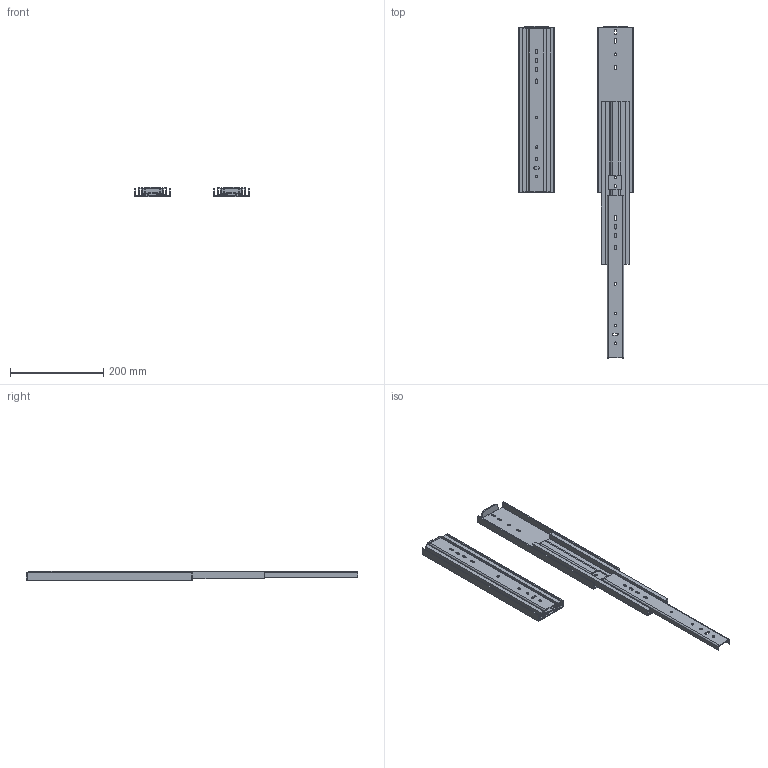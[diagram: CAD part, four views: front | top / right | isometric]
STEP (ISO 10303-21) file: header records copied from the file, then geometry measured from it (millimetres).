
FILE_DESCRIPTION((''),'2;1');
FILE_NAME('ASSEM1_1_2_3_ASM','2026-04-07T16:25:30',('T260078'),(''),'CREO PARAMETRIC BY PTC INC, 2025123','CREO PARAMETRIC BY PTC INC, 2025123','');
FILE_SCHEMA(('CONFIG_CONTROL_DESIGN','SHAPE_APPEARANCE_LAYERS_GROUPS'));
Length unit declared in the file: millimetre
Products named in the file (6): 76J01-14_X2_540B_X0_-M; 76J01-14_X2_540B_X0_-I; 76J01-14_X2_540B_X0_-O; 76J01-14_X2_540_X0__ASM; 76J01-14_X2_540B_X0_-_X2_5C5595_ASM; ASSEM1_1_2_3_ASM
Assembly tree (8 placements, depth 3):
  ASSEM1_1_2_3_ASM
    76J01-14_X2_540_X0__ASM
      76J01-14_X2_540B_X0_-M
      76J01-14_X2_540B_X0_-I
      76J01-14_X2_540B_X0_-O
    76J01-14_X2_540B_X0_-_X2_5C5595_ASM
      76J01-14_X2_540B_X0_-M
      76J01-14_X2_540B_X0_-I
      76J01-14_X2_540B_X0_-O
Bounding box: 245.44 x 711.2 x 19.3 mm (x, y, z)
Volume: 432131.9 mm3; surface area: 388466.3 mm2
Topology: 6 solids, 6 shells, 324 faces, 1008 edges, 688 vertices
Faces by surface type: plane 176, cylinder 148
Entity records: 6958 total; most frequent: CARTESIAN_POINT 1055, DIRECTION 1026, ORIENTED_EDGE 1008, EDGE_CURVE 504, AXIS2_PLACEMENT_3D 348, VERTEX_POINT 344, VECTOR 330, LINE 330
